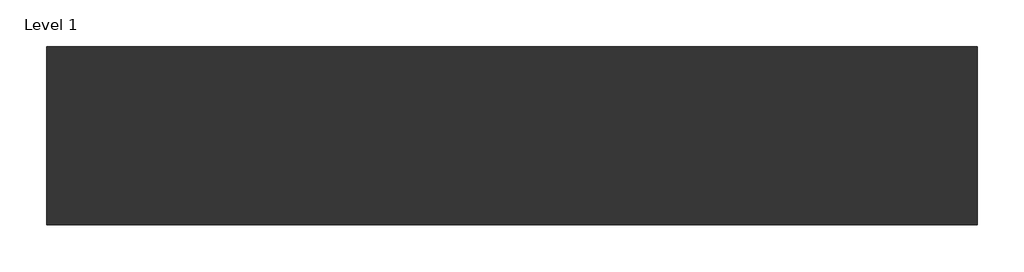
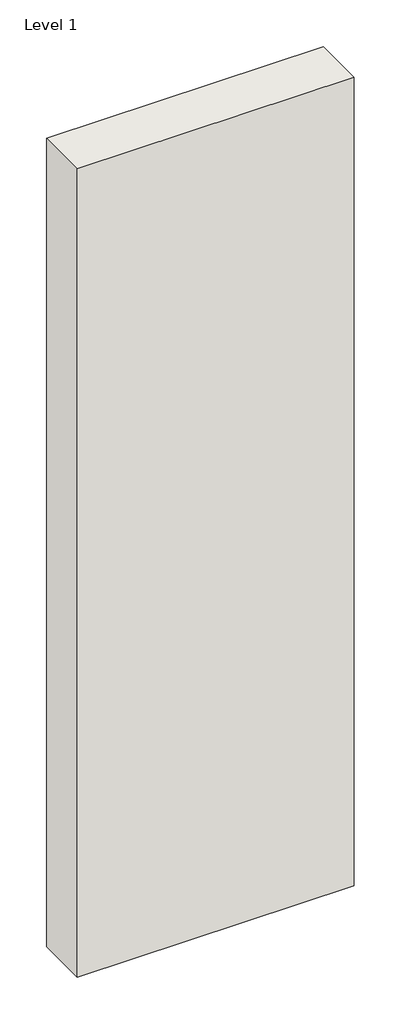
# One storey: 1 wall.
"""IFC4 building model written with IfcOpenShell, lengths in millimetres."""

from ifc_helpers import new_model, si_unit, origin, origin_with_axes, place, context, project, spatial, polyline, outline, extrude, element, save

model = new_model("IFC4")

# Units and contexts
model_context = context("Model", 3, world=origin())
ifc_project = project(units=[si_unit("LENGTHUNIT", "METRE", prefix="MILLI")], contexts=[model_context])

# Site, building, storey
site = spatial("IfcSite", under=ifc_project)
building = spatial("IfcBuilding", under=site)
storey = spatial("IfcBuildingStorey", under=building, Name="Level 1", Elevation=0.0)

# Wall
placement = place(None, origin())
element("IfcWall", 1, ObjectType="Tabique Doble – Placo® 230(90) 2xBA13 + 2x90LM + 2xBA13 c/600 - ≥ 55,9 dBA", at=placement, inside=storey, context=model_context, shape_type="SweptSolid", body=[
    extrude(outline(polyline([(-28676.4711674, -81283.0206549), (-29876.4711674, -81283.0206549), (-29876.4711674, -81053.0206549), (-28676.4711674, -81053.0206549), (-28676.4711674, -81283.0206549)])), origin_with_axes(), (0.0, 0.0, 1.0), 3700.0),
])

save(model, "model.ifc")
